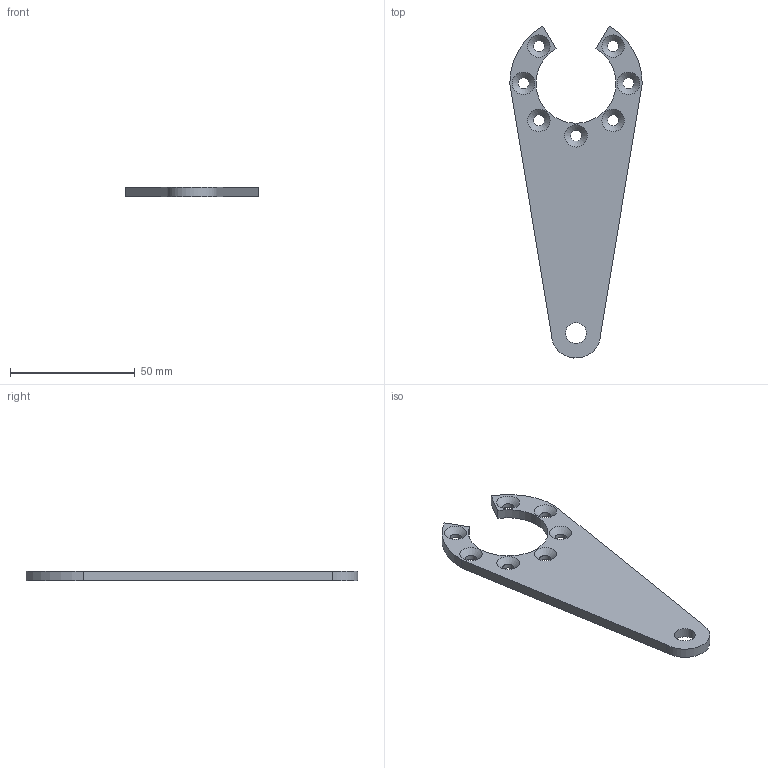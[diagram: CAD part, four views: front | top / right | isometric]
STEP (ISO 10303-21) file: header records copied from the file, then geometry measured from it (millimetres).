
FILE_DESCRIPTION(/* description */ (''),/* implementation_level */ '2;1');
FILE_NAME(/* name */ 'C:\Programm Inventor\DMK T63-B3\002760 - Drehmomentstütze für VE 31-D-H-8BR.stp',/* time_stamp */ '2015-09-15T11:45:23+02:00',/* author */ ('E.Schmidt'),/* organization */ (''),/* preprocessor_version */ 'ST-DEVELOPER v16.1',/* originating_system */ 'Autodesk Inventor 2016',/* authorisation */ '');
FILE_SCHEMA (('AUTOMOTIVE_DESIGN { 1 0 10303 214 3 1 1 }'));
Length unit declared in the file: millimetre
Products named in the file (2): Drehmomentstütze für VE 31-D-H-8BR_Substitute_1; Drehmomentstütze für VE 31-D-H-8BR
Assembly tree (1 placements, depth 2):
  Drehmomentstütze für VE 31-D-H-8BR
    Drehmomentstütze für VE 31-D-H-8BR_Substitute_1
Bounding box: 53 x 132.91 x 4 mm (x, y, z)
Volume: 14475 mm3; surface area: 9398.9 mm2
Topology: 1 solids, 1 shells, 25 faces, 70 edges, 47 vertices
Faces by surface type: cylinder 12, cone 7, plane 6
Full cylindrical faces by diameter (mm): 4.5 x7, 8.376 x1
Entity records: 777 total; most frequent: DIRECTION 134, CARTESIAN_POINT 114, ORIENTED_EDGE 94, AXIS2_PLACEMENT_3D 59, EDGE_LOOP 56, EDGE_CURVE 47, VERTEX_POINT 39, FACE_BOUND 31
